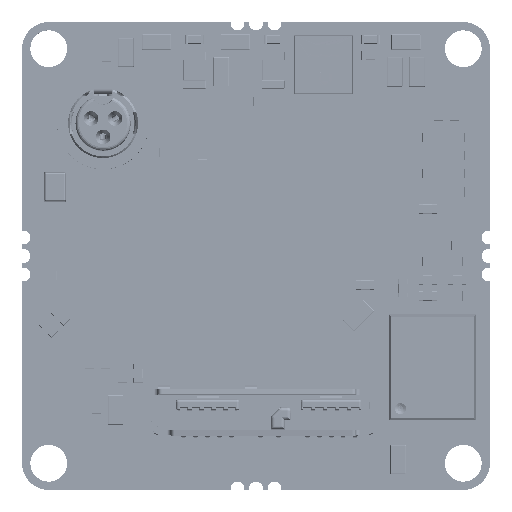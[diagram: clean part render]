
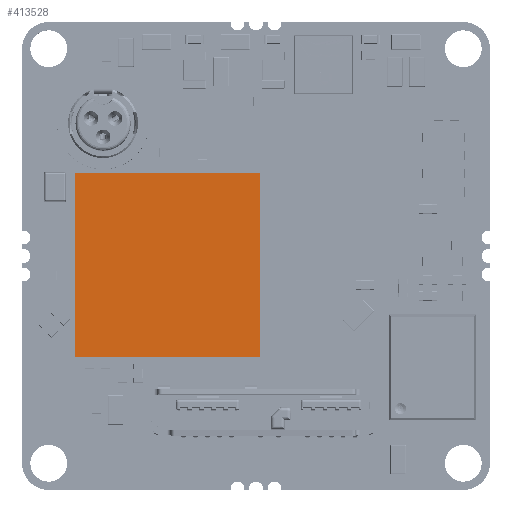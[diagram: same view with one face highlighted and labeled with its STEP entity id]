
A CAD part, top view. The second image highlights one B-rep face of the part: STEP entity #413528.
In plain terms, the highlighted planar face has unit normal (0, 0, 1).
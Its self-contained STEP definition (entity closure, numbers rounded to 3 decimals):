
#413214 = VERTEX_POINT('',#413215);
#413215 = CARTESIAN_POINT('',(5.,-5.,0.89));
#413222 = PLANE('',#413223);
#413223 = AXIS2_PLACEMENT_3D('',#413224,#413225,#413226);
#413224 = CARTESIAN_POINT('',(5.,-5.,0.));
#413225 = DIRECTION('',(0.,-1.,0.));
#413226 = DIRECTION('',(-1.,0.,0.));
#413234 = PLANE('',#413235);
#413235 = AXIS2_PLACEMENT_3D('',#413236,#413237,#413238);
#413236 = CARTESIAN_POINT('',(5.,5.,0.));
#413237 = DIRECTION('',(1.,0.,0.));
#413238 = DIRECTION('',(0.,-1.,0.));
#413246 = EDGE_CURVE('',#413214,#413247,#413249,.T.);
#413247 = VERTEX_POINT('',#413248);
#413248 = CARTESIAN_POINT('',(-5.,-5.,0.89));
#413249 = SURFACE_CURVE('',#413250,(#413254,#413261),.PCURVE_S1.);
#413250 = LINE('',#413251,#413252);
#413251 = CARTESIAN_POINT('',(5.,-5.,0.89));
#413252 = VECTOR('',#413253,1.);
#413253 = DIRECTION('',(-1.,0.,0.));
#413254 = PCURVE('',#413222,#413255);
#413255 = DEFINITIONAL_REPRESENTATION('',(#413256),#413260);
#413256 = LINE('',#413257,#413258);
#413257 = CARTESIAN_POINT('',(0.,-0.89));
#413258 = VECTOR('',#413259,1.);
#413259 = DIRECTION('',(1.,0.));
#413260 = ( GEOMETRIC_REPRESENTATION_CONTEXT(2) 
PARAMETRIC_REPRESENTATION_CONTEXT() REPRESENTATION_CONTEXT('2D SPACE',''
  ) );
#413261 = PCURVE('',#413262,#413267);
#413262 = PLANE('',#413263);
#413263 = AXIS2_PLACEMENT_3D('',#413264,#413265,#413266);
#413264 = CARTESIAN_POINT('',(5.,-5.,0.89));
#413265 = DIRECTION('',(0.,0.,1.));
#413266 = DIRECTION('',(1.,0.,0.));
#413267 = DEFINITIONAL_REPRESENTATION('',(#413268),#413272);
#413268 = LINE('',#413269,#413270);
#413269 = CARTESIAN_POINT('',(0.,0.));
#413270 = VECTOR('',#413271,1.);
#413271 = DIRECTION('',(-1.,0.));
#413272 = ( GEOMETRIC_REPRESENTATION_CONTEXT(2) 
PARAMETRIC_REPRESENTATION_CONTEXT() REPRESENTATION_CONTEXT('2D SPACE',''
  ) );
#413290 = PLANE('',#413291);
#413291 = AXIS2_PLACEMENT_3D('',#413292,#413293,#413294);
#413292 = CARTESIAN_POINT('',(-5.,-5.,0.));
#413293 = DIRECTION('',(-1.,0.,0.));
#413294 = DIRECTION('',(0.,1.,0.));
#413332 = EDGE_CURVE('',#413247,#413333,#413335,.T.);
#413333 = VERTEX_POINT('',#413334);
#413334 = CARTESIAN_POINT('',(-5.,5.,0.89));
#413335 = SURFACE_CURVE('',#413336,(#413340,#413347),.PCURVE_S1.);
#413336 = LINE('',#413337,#413338);
#413337 = CARTESIAN_POINT('',(-5.,-5.,0.89));
#413338 = VECTOR('',#413339,1.);
#413339 = DIRECTION('',(0.,1.,0.));
#413340 = PCURVE('',#413290,#413341);
#413341 = DEFINITIONAL_REPRESENTATION('',(#413342),#413346);
#413342 = LINE('',#413343,#413344);
#413343 = CARTESIAN_POINT('',(0.,-0.89));
#413344 = VECTOR('',#413345,1.);
#413345 = DIRECTION('',(1.,0.));
#413346 = ( GEOMETRIC_REPRESENTATION_CONTEXT(2) 
PARAMETRIC_REPRESENTATION_CONTEXT() REPRESENTATION_CONTEXT('2D SPACE',''
  ) );
#413347 = PCURVE('',#413262,#413348);
#413348 = DEFINITIONAL_REPRESENTATION('',(#413349),#413353);
#413349 = LINE('',#413350,#413351);
#413350 = CARTESIAN_POINT('',(-10.,0.));
#413351 = VECTOR('',#413352,1.);
#413352 = DIRECTION('',(0.,1.));
#413353 = ( GEOMETRIC_REPRESENTATION_CONTEXT(2) 
PARAMETRIC_REPRESENTATION_CONTEXT() REPRESENTATION_CONTEXT('2D SPACE',''
  ) );
#413371 = PLANE('',#413372);
#413372 = AXIS2_PLACEMENT_3D('',#413373,#413374,#413375);
#413373 = CARTESIAN_POINT('',(-5.,5.,0.));
#413374 = DIRECTION('',(0.,1.,0.));
#413375 = DIRECTION('',(1.,0.,0.));
#413408 = EDGE_CURVE('',#413333,#413409,#413411,.T.);
#413409 = VERTEX_POINT('',#413410);
#413410 = CARTESIAN_POINT('',(5.,5.,0.89));
#413411 = SURFACE_CURVE('',#413412,(#413416,#413423),.PCURVE_S1.);
#413412 = LINE('',#413413,#413414);
#413413 = CARTESIAN_POINT('',(-5.,5.,0.89));
#413414 = VECTOR('',#413415,1.);
#413415 = DIRECTION('',(1.,0.,0.));
#413416 = PCURVE('',#413371,#413417);
#413417 = DEFINITIONAL_REPRESENTATION('',(#413418),#413422);
#413418 = LINE('',#413419,#413420);
#413419 = CARTESIAN_POINT('',(0.,-0.89));
#413420 = VECTOR('',#413421,1.);
#413421 = DIRECTION('',(1.,0.));
#413422 = ( GEOMETRIC_REPRESENTATION_CONTEXT(2) 
PARAMETRIC_REPRESENTATION_CONTEXT() REPRESENTATION_CONTEXT('2D SPACE',''
  ) );
#413423 = PCURVE('',#413262,#413424);
#413424 = DEFINITIONAL_REPRESENTATION('',(#413425),#413429);
#413425 = LINE('',#413426,#413427);
#413426 = CARTESIAN_POINT('',(-10.,10.));
#413427 = VECTOR('',#413428,1.);
#413428 = DIRECTION('',(1.,0.));
#413429 = ( GEOMETRIC_REPRESENTATION_CONTEXT(2) 
PARAMETRIC_REPRESENTATION_CONTEXT() REPRESENTATION_CONTEXT('2D SPACE',''
  ) );
#413479 = EDGE_CURVE('',#413409,#413214,#413480,.T.);
#413480 = SURFACE_CURVE('',#413481,(#413485,#413492),.PCURVE_S1.);
#413481 = LINE('',#413482,#413483);
#413482 = CARTESIAN_POINT('',(5.,5.,0.89));
#413483 = VECTOR('',#413484,1.);
#413484 = DIRECTION('',(0.,-1.,0.));
#413485 = PCURVE('',#413234,#413486);
#413486 = DEFINITIONAL_REPRESENTATION('',(#413487),#413491);
#413487 = LINE('',#413488,#413489);
#413488 = CARTESIAN_POINT('',(0.,-0.89));
#413489 = VECTOR('',#413490,1.);
#413490 = DIRECTION('',(1.,0.));
#413491 = ( GEOMETRIC_REPRESENTATION_CONTEXT(2) 
PARAMETRIC_REPRESENTATION_CONTEXT() REPRESENTATION_CONTEXT('2D SPACE',''
  ) );
#413492 = PCURVE('',#413262,#413493);
#413493 = DEFINITIONAL_REPRESENTATION('',(#413494),#413498);
#413494 = LINE('',#413495,#413496);
#413495 = CARTESIAN_POINT('',(0.,10.));
#413496 = VECTOR('',#413497,1.);
#413497 = DIRECTION('',(0.,-1.));
#413498 = ( GEOMETRIC_REPRESENTATION_CONTEXT(2) 
PARAMETRIC_REPRESENTATION_CONTEXT() REPRESENTATION_CONTEXT('2D SPACE',''
  ) );
#413528 = ADVANCED_FACE('',(#413529),#413262,.T.);
#413529 = FACE_BOUND('',#413530,.F.);
#413530 = EDGE_LOOP('',(#413531,#413532,#413533,#413534));
#413531 = ORIENTED_EDGE('',*,*,#413246,.T.);
#413532 = ORIENTED_EDGE('',*,*,#413332,.T.);
#413533 = ORIENTED_EDGE('',*,*,#413408,.T.);
#413534 = ORIENTED_EDGE('',*,*,#413479,.T.);
